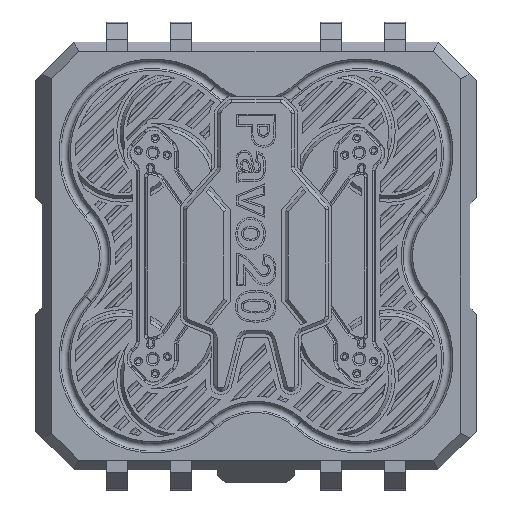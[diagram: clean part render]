
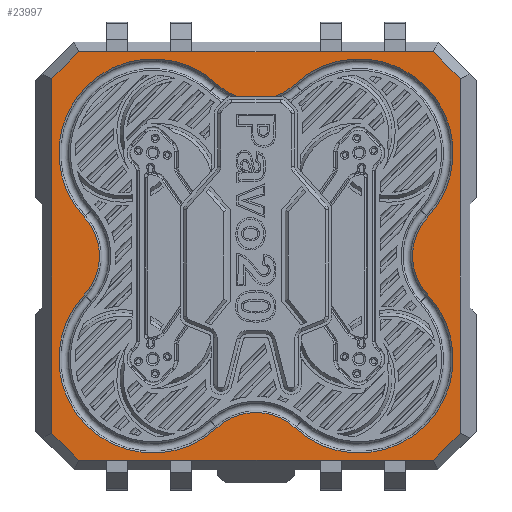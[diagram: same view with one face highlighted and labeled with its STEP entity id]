
A CAD part, top view. The second image highlights one B-rep face of the part: STEP entity #23997.
In plain terms, the highlighted planar face has unit normal (0, 0, 1).
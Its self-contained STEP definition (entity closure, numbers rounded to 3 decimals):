
#439=FACE_BOUND('',#4684,.T.);
#1039=PLANE('',#26023);
#1897=CIRCLE('',#26024,17.699);
#1898=CIRCLE('',#26025,29.);
#1899=CIRCLE('',#26026,17.699);
#1900=CIRCLE('',#26027,29.);
#1901=CIRCLE('',#26028,17.699);
#1902=CIRCLE('',#26029,29.);
#1903=CIRCLE('',#26030,17.699);
#1904=CIRCLE('',#26031,29.);
#1905=CIRCLE('',#26032,17.699);
#3204=FACE_OUTER_BOUND('',#4683,.T.);
#4683=EDGE_LOOP('',(#21399,#21400,#21401,#21402,#21403,#21404,#21405,#21406));
#4684=EDGE_LOOP('',(#21407,#21408,#21409,#21410,#21411,#21412,#21413,#21414,
#21415,#21416));
#6572=LINE('',#43565,#8528);
#6606=LINE('',#43714,#8562);
#6607=LINE('',#43716,#8563);
#6608=LINE('',#43718,#8564);
#6609=LINE('',#43720,#8565);
#6610=LINE('',#43722,#8566);
#6611=LINE('',#43724,#8567);
#6612=LINE('',#43726,#8568);
#6613=LINE('',#43727,#8569);
#8528=VECTOR('',#31562,10.);
#8562=VECTOR('',#31674,10.);
#8563=VECTOR('',#31675,10.);
#8564=VECTOR('',#31676,10.);
#8565=VECTOR('',#31677,10.);
#8566=VECTOR('',#31678,10.);
#8567=VECTOR('',#31679,10.);
#8568=VECTOR('',#31680,10.);
#8569=VECTOR('',#31681,10.);
#11516=VERTEX_POINT('',#43560);
#11517=VERTEX_POINT('',#43564);
#11529=VERTEX_POINT('',#43712);
#11530=VERTEX_POINT('',#43713);
#11531=VERTEX_POINT('',#43715);
#11532=VERTEX_POINT('',#43717);
#11533=VERTEX_POINT('',#43719);
#11534=VERTEX_POINT('',#43721);
#11535=VERTEX_POINT('',#43723);
#11536=VERTEX_POINT('',#43725);
#11537=VERTEX_POINT('',#43728);
#11538=VERTEX_POINT('',#43730);
#11539=VERTEX_POINT('',#43732);
#11540=VERTEX_POINT('',#43734);
#11541=VERTEX_POINT('',#43736);
#11542=VERTEX_POINT('',#43738);
#11543=VERTEX_POINT('',#43740);
#11544=VERTEX_POINT('',#43742);
#14861=EDGE_CURVE('',#11517,#11516,#6572,.T.);
#14906=EDGE_CURVE('',#11529,#11530,#6606,.T.);
#14907=EDGE_CURVE('',#11531,#11529,#6607,.T.);
#14908=EDGE_CURVE('',#11532,#11531,#6608,.T.);
#14909=EDGE_CURVE('',#11533,#11532,#6609,.T.);
#14910=EDGE_CURVE('',#11534,#11533,#6610,.T.);
#14911=EDGE_CURVE('',#11535,#11534,#6611,.T.);
#14912=EDGE_CURVE('',#11536,#11535,#6612,.T.);
#14913=EDGE_CURVE('',#11530,#11536,#6613,.T.);
#14914=EDGE_CURVE('',#11537,#11516,#1897,.T.);
#14915=EDGE_CURVE('',#11538,#11537,#1898,.T.);
#14916=EDGE_CURVE('',#11539,#11538,#1899,.T.);
#14917=EDGE_CURVE('',#11540,#11539,#1900,.T.);
#14918=EDGE_CURVE('',#11541,#11540,#1901,.T.);
#14919=EDGE_CURVE('',#11542,#11541,#1902,.T.);
#14920=EDGE_CURVE('',#11543,#11542,#1903,.T.);
#14921=EDGE_CURVE('',#11544,#11543,#1904,.T.);
#14922=EDGE_CURVE('',#11517,#11544,#1905,.T.);
#21399=ORIENTED_EDGE('',*,*,#14906,.F.);
#21400=ORIENTED_EDGE('',*,*,#14907,.F.);
#21401=ORIENTED_EDGE('',*,*,#14908,.F.);
#21402=ORIENTED_EDGE('',*,*,#14909,.F.);
#21403=ORIENTED_EDGE('',*,*,#14910,.F.);
#21404=ORIENTED_EDGE('',*,*,#14911,.F.);
#21405=ORIENTED_EDGE('',*,*,#14912,.F.);
#21406=ORIENTED_EDGE('',*,*,#14913,.F.);
#21407=ORIENTED_EDGE('',*,*,#14861,.T.);
#21408=ORIENTED_EDGE('',*,*,#14914,.F.);
#21409=ORIENTED_EDGE('',*,*,#14915,.F.);
#21410=ORIENTED_EDGE('',*,*,#14916,.F.);
#21411=ORIENTED_EDGE('',*,*,#14917,.F.);
#21412=ORIENTED_EDGE('',*,*,#14918,.F.);
#21413=ORIENTED_EDGE('',*,*,#14919,.F.);
#21414=ORIENTED_EDGE('',*,*,#14920,.F.);
#21415=ORIENTED_EDGE('',*,*,#14921,.F.);
#21416=ORIENTED_EDGE('',*,*,#14922,.F.);
#23997=ADVANCED_FACE('',(#3204,#439),#1039,.T.);
#26023=AXIS2_PLACEMENT_3D('',#43711,#31672,#31673);
#26024=AXIS2_PLACEMENT_3D('',#43729,#31682,#31683);
#26025=AXIS2_PLACEMENT_3D('',#43731,#31684,#31685);
#26026=AXIS2_PLACEMENT_3D('',#43733,#31686,#31687);
#26027=AXIS2_PLACEMENT_3D('',#43735,#31688,#31689);
#26028=AXIS2_PLACEMENT_3D('',#43737,#31690,#31691);
#26029=AXIS2_PLACEMENT_3D('',#43739,#31692,#31693);
#26030=AXIS2_PLACEMENT_3D('',#43741,#31694,#31695);
#26031=AXIS2_PLACEMENT_3D('',#43743,#31696,#31697);
#26032=AXIS2_PLACEMENT_3D('',#43744,#31698,#31699);
#31562=DIRECTION('',(1.,0.,0.));
#31672=DIRECTION('center_axis',(0.,0.,1.));
#31673=DIRECTION('ref_axis',(1.,0.,0.));
#31674=DIRECTION('',(0.707,0.707,0.));
#31675=DIRECTION('',(0.,1.,0.));
#31676=DIRECTION('',(-0.707,0.707,0.));
#31677=DIRECTION('',(-1.,0.,0.));
#31678=DIRECTION('',(-0.707,-0.707,0.));
#31679=DIRECTION('',(0.,-1.,0.));
#31680=DIRECTION('',(0.707,-0.707,0.));
#31681=DIRECTION('',(1.,0.,0.));
#31682=DIRECTION('center_axis',(0.,0.,-1.));
#31683=DIRECTION('ref_axis',(-0.681,-0.732,0.));
#31684=DIRECTION('center_axis',(0.,0.,1.));
#31685=DIRECTION('ref_axis',(0.732,-0.681,0.));
#31686=DIRECTION('center_axis',(0.,0.,-1.));
#31687=DIRECTION('ref_axis',(-0.732,0.681,0.));
#31688=DIRECTION('center_axis',(0.,0.,1.));
#31689=DIRECTION('ref_axis',(-0.681,-0.732,0.));
#31690=DIRECTION('center_axis',(0.,0.,-1.));
#31691=DIRECTION('ref_axis',(0.681,0.732,0.));
#31692=DIRECTION('center_axis',(0.,0.,1.));
#31693=DIRECTION('ref_axis',(-0.732,0.681,0.));
#31694=DIRECTION('center_axis',(0.,0.,-1.));
#31695=DIRECTION('ref_axis',(0.732,-0.681,0.));
#31696=DIRECTION('center_axis',(0.,0.,1.));
#31697=DIRECTION('ref_axis',(0.681,0.732,0.));
#31698=DIRECTION('center_axis',(0.,0.,-1.));
#31699=DIRECTION('ref_axis',(-0.681,-0.732,0.));
#43560=CARTESIAN_POINT('',(5.853,49.297,44.5));
#43564=CARTESIAN_POINT('',(-5.853,49.297,44.5));
#43565=CARTESIAN_POINT('',(-3.759,49.297,44.5));
#43711=CARTESIAN_POINT('Origin',(0.,0.,
44.5));
#43712=CARTESIAN_POINT('',(-63.,54.757,44.5));
#43713=CARTESIAN_POINT('',(-54.757,63.,44.5));
#43714=CARTESIAN_POINT('',(-56.379,61.379,44.5));
#43715=CARTESIAN_POINT('',(-63.,-54.757,44.5));
#43716=CARTESIAN_POINT('',(-63.,28.,44.5));
#43717=CARTESIAN_POINT('',(-54.757,-63.,44.5));
#43718=CARTESIAN_POINT('',(-61.379,-56.379,44.5));
#43719=CARTESIAN_POINT('',(54.757,-63.,44.5));
#43720=CARTESIAN_POINT('',(-28.,-63.,44.5));
#43721=CARTESIAN_POINT('',(63.,-54.757,44.5));
#43722=CARTESIAN_POINT('',(56.379,-61.379,44.5));
#43723=CARTESIAN_POINT('',(63.,54.757,44.5));
#43724=CARTESIAN_POINT('',(63.,-28.,44.5));
#43725=CARTESIAN_POINT('',(54.757,63.,44.5));
#43726=CARTESIAN_POINT('',(61.379,56.379,44.5));
#43727=CARTESIAN_POINT('',(28.,63.,44.5));
#43728=CARTESIAN_POINT('',(12.06,53.046,44.5));
#43729=CARTESIAN_POINT('Origin',(0.,66.,
44.5));
#43730=CARTESIAN_POINT('',(53.046,12.06,44.5));
#43731=CARTESIAN_POINT('Origin',(31.82,31.82,44.5));
#43732=CARTESIAN_POINT('',(53.046,-12.06,44.5));
#43733=CARTESIAN_POINT('Origin',(66.,0.,
44.5));
#43734=CARTESIAN_POINT('',(12.06,-53.046,44.5));
#43735=CARTESIAN_POINT('Origin',(31.82,-31.82,44.5));
#43736=CARTESIAN_POINT('',(-12.06,-53.046,44.5));
#43737=CARTESIAN_POINT('Origin',(0.,-66.,
44.5));
#43738=CARTESIAN_POINT('',(-53.046,-12.06,44.5));
#43739=CARTESIAN_POINT('Origin',(-31.82,-31.82,44.5));
#43740=CARTESIAN_POINT('',(-53.046,12.06,44.5));
#43741=CARTESIAN_POINT('Origin',(-66.,0.,
44.5));
#43742=CARTESIAN_POINT('',(-12.06,53.046,44.5));
#43743=CARTESIAN_POINT('Origin',(-31.82,31.82,44.5));
#43744=CARTESIAN_POINT('Origin',(0.,66.,
44.5));
